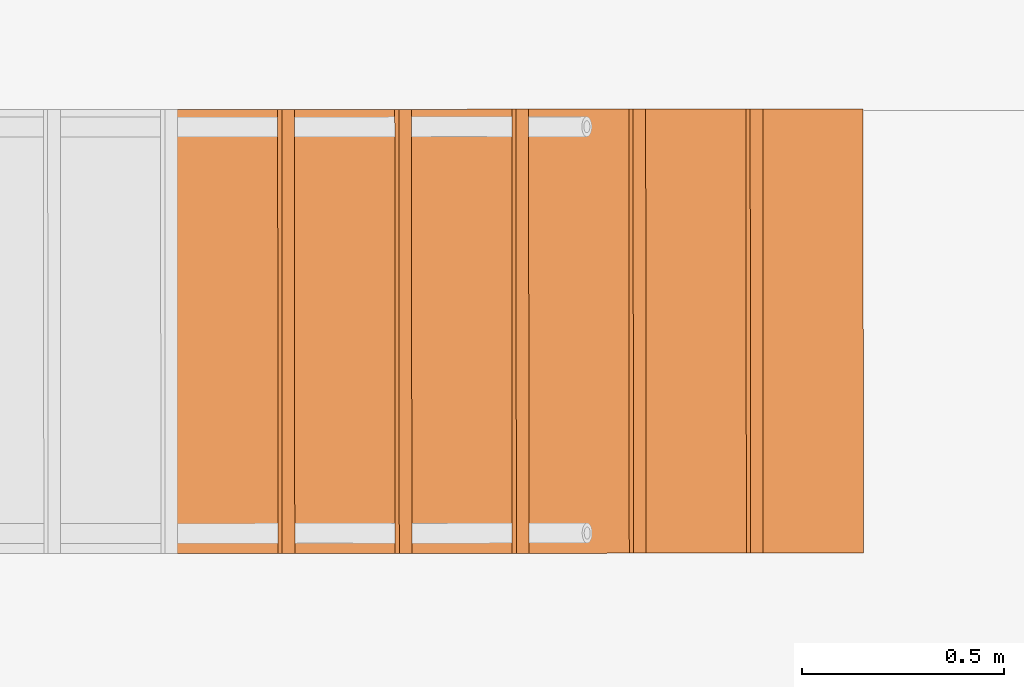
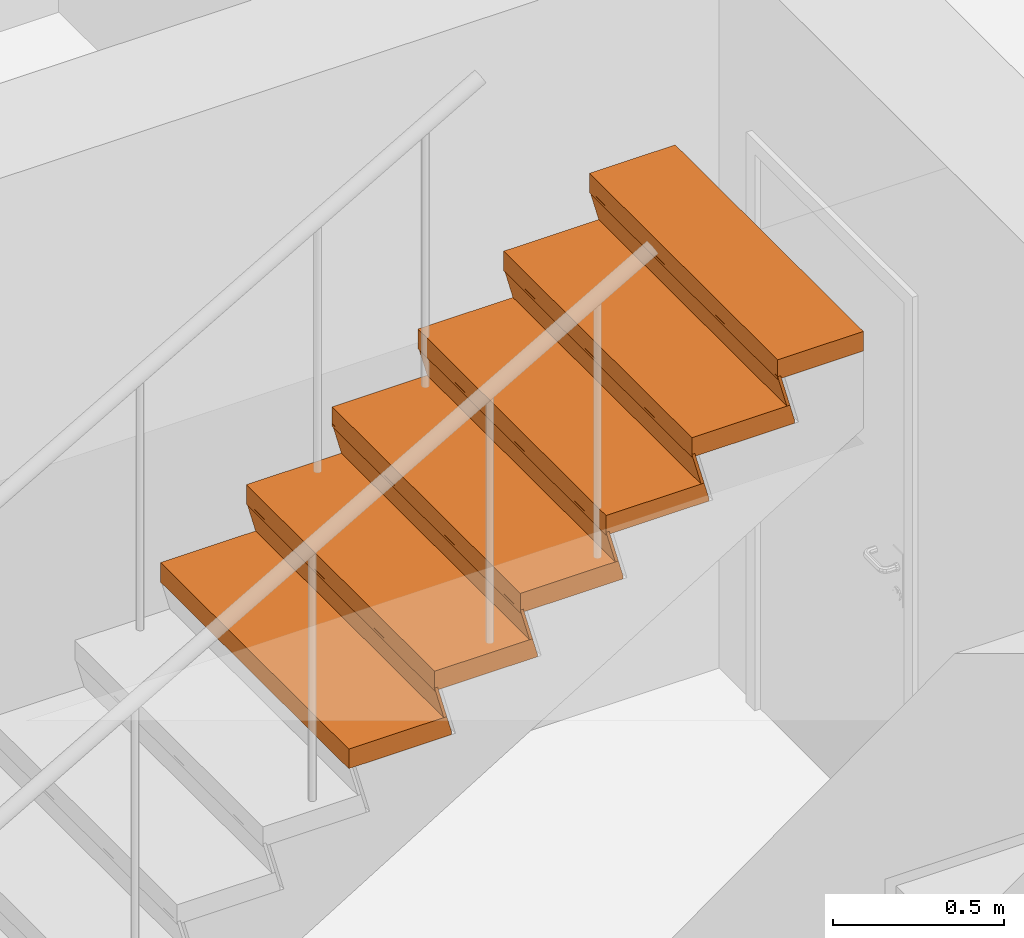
# One storey, part 127 of 127: 11 proxies, 1 element without a shape of its own.
"""IFC2X3 building model written with IfcOpenShell, lengths in millimetres."""

from ifc_helpers import new_model, entity, si_unit, converted_unit, derived_unit, money_unit, direction, frame, origin_with_axes, place, context, subcontext, project, spatial, faceted_brep, material, type_object, element, aggregate, save


model = new_model("IFC2X3")

# Units and contexts
model_context = context("Model", 3, precision=1e-05, world=origin_with_axes(), true_north=direction((0.0, 1.0)))
body_context = subcontext(model_context, "Body", "Model", "MODEL_VIEW")
ifc_project = project(units=[si_unit("LENGTHUNIT", "METRE", prefix="MILLI"), si_unit("AREAUNIT", "SQUARE_METRE"), si_unit("VOLUMEUNIT", "CUBIC_METRE"), converted_unit("PLANEANGLEUNIT", "DEGREE", entity("IfcPlaneAngleMeasure", 0.0174532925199), si_unit("PLANEANGLEUNIT", "RADIAN"), dimensions=[0, 0, 0, 0, 0, 0, 0]), si_unit("SOLIDANGLEUNIT", "STERADIAN"), money_unit("EUR"), converted_unit("TIMEUNIT", "Year", entity("IfcTimeMeasure", 31556926.0), si_unit("TIMEUNIT", "SECOND"), dimensions=[0, 0, 1, 0, 0, 0, 0]), si_unit("MASSUNIT", "GRAM", prefix="KILO"), si_unit("THERMODYNAMICTEMPERATUREUNIT", "DEGREE_CELSIUS"), si_unit("LUMINOUSINTENSITYUNIT", "LUMEN"), si_unit("ENERGYUNIT", "JOULE", prefix="MEGA"), derived_unit("THERMALCONDUCTANCEUNIT", [(si_unit("POWERUNIT", "WATT"), 1), (si_unit("LENGTHUNIT", "METRE"), -1), (si_unit("THERMODYNAMICTEMPERATUREUNIT", "KELVIN"), -1)]), derived_unit("SPECIFICHEATCAPACITYUNIT", [(si_unit("ENERGYUNIT", "JOULE"), 1), (si_unit("MASSUNIT", "GRAM", prefix="KILO"), -1), (si_unit("THERMODYNAMICTEMPERATUREUNIT", "KELVIN"), -1)]), derived_unit("MASSDENSITYUNIT", [(si_unit("MASSUNIT", "GRAM", prefix="KILO"), 1), (si_unit("VOLUMEUNIT", "CUBIC_METRE"), -1)])], contexts=[model_context])

# Site, building, storey
site_placement = place(None, origin_with_axes())
site = spatial("IfcSite", under=ifc_project, at=site_placement, Name="Site", CompositionType="ELEMENT")
building_placement = place(site_placement, origin_with_axes())
building = spatial("IfcBuilding", under=site, at=building_placement, Name="Building", CompositionType="ELEMENT")
storey_placement = place(building_placement, origin_with_axes())
storey = spatial("IfcBuildingStorey", under=building, at=storey_placement, Name="1 KORRUS", CompositionType="ELEMENT", Elevation=0.0)

# Stair, proxies
stair_placement = place(storey_placement, frame((9889.99181075, 65961.1849179, 0.0), z_axis=(0.0, 0.0, 1.0), x_axis=(1.0, 0.0, 0.0)))
stair = element("IfcStair", 1, at=stair_placement, inside=storey, Name="STAIR - 001", ShapeType="NOTDEFINED")
ifc_material = material(Name="Betoon - Ol.Olev konstruktsioon")
building_element_proxy_type_1 = type_object("IfcBuildingElementProxyType", Name="SF RISER - 020", PredefinedType="NOTDEFINED")
proxy_1_placement = place(stair_placement, frame((3480.43740271, -547.22526059, 2234.11764706), z_axis=(0.0, 0.0, 1.0), x_axis=(0.000797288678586, -0.999999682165, 0.0)))
proxy_1 = element("IfcBuildingElementProxy", 2, at=proxy_1_placement, type_object=building_element_proxy_type_1, material=ifc_material, Name=";  Objekti nimi: Riser 22", context=body_context, shape_type="Brep", body=[
    faceted_brep([(550.0, 0.0, 0.0), (550.0, 10.3527618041, 0.0), (-550.0, 10.3527618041, 0.0), (-550.0, 0.0, 0.0), (550.0, 31.2082000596, -116.470588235), (550.0, 41.5609618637, -116.470588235), (-550.0, 41.5609618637, -116.470588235), (-550.0, 31.2082000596, -116.470588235)], [[[0, 1, 2, 3]], [[0, 4, 5, 1]], [[1, 5, 6, 2]], [[3, 2, 6, 7]], [[4, 0, 3, 7]], [[5, 4, 7, 6]]]),
])
proxy_2_placement = place(stair_placement, frame((3770.43731054, -546.994046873, 2410.58823529), z_axis=(0.0, 0.0, 1.0), x_axis=(0.000797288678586, -0.999999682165, 0.0)))
proxy_2 = element("IfcBuildingElementProxy", 3, at=proxy_2_placement, type_object=building_element_proxy_type_1, material=ifc_material, Name=";  Objekti nimi: Riser 22", context=body_context, shape_type="Brep", body=[
    faceted_brep([(550.0, 0.0, 0.0), (550.0, 10.3527618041, 0.0), (-550.0, 10.3527618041, 0.0), (-550.0, 0.0, 0.0), (550.0, 31.2082000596, -116.470588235), (550.0, 41.5609618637, -116.470588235), (-550.0, 41.5609618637, -116.470588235), (-550.0, 31.2082000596, -116.470588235)], [[[0, 1, 2, 3]], [[0, 4, 5, 1]], [[1, 5, 6, 2]], [[3, 2, 6, 7]], [[4, 0, 3, 7]], [[5, 4, 7, 6]]]),
])
proxy_3_placement = place(stair_placement, frame((4060.43721836, -546.762833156, 2587.05882353), z_axis=(0.0, 0.0, 1.0), x_axis=(0.000797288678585, -0.999999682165, 0.0)))
proxy_3 = element("IfcBuildingElementProxy", 4, at=proxy_3_placement, type_object=building_element_proxy_type_1, material=ifc_material, Name=";  Objekti nimi: Riser 22", context=body_context, shape_type="Brep", body=[
    faceted_brep([(550.0, 0.0, 0.0), (550.0, 10.3527618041, 0.0), (-550.0, 10.3527618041, 0.0), (-550.0, 0.0, 0.0), (550.0, 31.2082000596, -116.470588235), (550.0, 41.5609618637, -116.470588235), (-550.0, 41.5609618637, -116.470588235), (-550.0, 31.2082000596, -116.470588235)], [[[0, 1, 2, 3]], [[0, 4, 5, 1]], [[1, 5, 6, 2]], [[3, 2, 6, 7]], [[4, 0, 3, 7]], [[5, 4, 7, 6]]]),
])
proxy_4_placement = place(stair_placement, frame((4350.43712619, -546.53161944, 2763.52941176), z_axis=(0.0, 0.0, 1.0), x_axis=(0.000797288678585, -0.999999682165, 0.0)))
proxy_4 = element("IfcBuildingElementProxy", 5, at=proxy_4_placement, type_object=building_element_proxy_type_1, material=ifc_material, Name=";  Objekti nimi: Riser 22", context=body_context, shape_type="Brep", body=[
    faceted_brep([(550.0, 0.0, 0.0), (550.0, 10.3527618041, 0.0), (-550.0, 10.3527618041, 0.0), (-550.0, 0.0, 0.0), (550.0, 31.2082000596, -116.470588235), (550.0, 41.5609618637, -116.470588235), (-550.0, 41.5609618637, -116.470588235), (-550.0, 31.2082000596, -116.470588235)], [[[0, 1, 2, 3]], [[0, 4, 5, 1]], [[1, 5, 6, 2]], [[3, 2, 6, 7]], [[4, 0, 3, 7]], [[5, 4, 7, 6]]]),
])
proxy_5_placement = place(stair_placement, frame((4640.43703402, -546.300405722, 2940.0), z_axis=(0.0, 0.0, 1.0), x_axis=(0.000797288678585, -0.999999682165, 0.0)))
proxy_5 = element("IfcBuildingElementProxy", 6, at=proxy_5_placement, type_object=building_element_proxy_type_1, material=ifc_material, Name=";  Objekti nimi: Riser 22", context=body_context, shape_type="Brep", body=[
    faceted_brep([(550.0, 0.0, 0.0), (550.0, 10.3527618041, 0.0), (-550.0, 10.3527618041, 0.0), (-550.0, 0.0, 0.0), (550.0, 31.2082000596, -116.470588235), (550.0, 41.5609618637, -116.470588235), (-550.0, 41.5609618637, -116.470588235), (-550.0, 31.2082000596, -116.470588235)], [[[0, 1, 2, 3]], [[0, 4, 5, 1]], [[1, 5, 6, 2]], [[3, 2, 6, 7]], [[4, 0, 3, 7]], [[5, 4, 7, 6]]]),
])
building_element_proxy_type_2 = type_object("IfcBuildingElementProxyType", Name="SF TREAD - 020", PredefinedType="NOTDEFINED")
proxy_6_placement = place(stair_placement, frame((3190.43749488, -547.456474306, 2117.64705882), z_axis=(0.0, 0.0, 1.0), x_axis=(0.000797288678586, -0.999999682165, 0.0)))
proxy_6 = element("IfcBuildingElementProxy", 7, at=proxy_6_placement, type_object=building_element_proxy_type_2, material=ifc_material, Name=";  Objekti nimi: Tread 22", context=body_context, shape_type="Brep", body=[
    faceted_brep([(-550.0, 347.637908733, -70.0), (550.0, 347.637914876, -70.0), (550.0, 0.0, -70.0), (-550.0, 0.0, -70.0), (510.0, 40.0, -70.0), (510.0, 307.637914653, -70.0), (-510.0, 307.637908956, -70.0), (-510.0, 40.0, -70.0), (-550.00000018, 347.637908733, -60.0), (550.0, 347.637908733, -60.0), (550.0, 331.560957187, 0.0), (550.0, 0.0, 0.0), (-550.0, 0.0, 0.0), (-550.0, 331.560957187, 0.0), (510.0, 40.0, -60.0), (510.0, 307.637914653, -60.0), (-510.0, 307.637908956, -60.0), (-510.0, 40.0, -60.0)], [[[0, 1, 2, 3], [4, 5, 6, 7]], [[0, 8, 9, 1]], [[10, 11, 2, 1, 9]], [[11, 12, 3, 2]], [[12, 13, 8, 0, 3]], [[5, 4, 14, 15]], [[6, 5, 15, 16]], [[7, 6, 16, 17]], [[4, 7, 17, 14]], [[13, 10, 9, 8]], [[10, 13, 12, 11]], [[17, 16, 15, 14]]]),
])
proxy_7_placement = place(stair_placement, frame((3480.43740271, -547.22526059, 2294.11764706), z_axis=(0.0, 0.0, 1.0), x_axis=(0.000797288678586, -0.999999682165, 0.0)))
proxy_7 = element("IfcBuildingElementProxy", 8, at=proxy_7_placement, type_object=building_element_proxy_type_2, material=ifc_material, Name=";  Objekti nimi: Tread 22", context=body_context, shape_type="Brep", body=[
    faceted_brep([(-550.0, 347.637912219, -70.0), (550.0, 347.637918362, -70.0), (550.0, 0.0, -70.0), (-550.0, 0.0, -70.0), (510.0, 40.0, -70.0), (510.0, 307.637918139, -70.0), (-510.0, 307.637912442, -70.0), (-510.0, 40.0, -70.0), (-550.00000018, 347.637912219, -60.0), (550.0, 347.637912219, -60.0), (550.0, 331.560960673, 0.0), (550.0, 0.0, 0.0), (-550.0, 0.0, 0.0), (-550.0, 331.560960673, 0.0), (510.0, 40.0, -60.0), (510.0, 307.637918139, -60.0), (-510.0, 307.637912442, -60.0), (-510.0, 40.0, -60.0)], [[[0, 1, 2, 3], [4, 5, 6, 7]], [[0, 8, 9, 1]], [[10, 11, 2, 1, 9]], [[11, 12, 3, 2]], [[12, 13, 8, 0, 3]], [[5, 4, 14, 15]], [[6, 5, 15, 16]], [[7, 6, 16, 17]], [[4, 7, 17, 14]], [[13, 10, 9, 8]], [[10, 13, 12, 11]], [[17, 16, 15, 14]]]),
])
proxy_8_placement = place(stair_placement, frame((3770.43731054, -546.994046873, 2470.58823529), z_axis=(0.0, 0.0, 1.0), x_axis=(0.000797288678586, -0.999999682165, 0.0)))
proxy_8 = element("IfcBuildingElementProxy", 9, at=proxy_8_placement, type_object=building_element_proxy_type_2, material=ifc_material, Name=";  Objekti nimi: Tread 22", context=body_context, shape_type="Brep", body=[
    faceted_brep([(-550.0, 347.637911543, -70.0), (550.0, 347.637917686, -70.0), (550.0, 0.0, -70.0), (-550.0, 0.0, -70.0), (510.0, 40.0, -70.0), (510.0, 307.637917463, -70.0), (-510.0, 307.637911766, -70.0), (-510.0, 40.0, -70.0), (-550.00000018, 347.637911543, -60.0), (550.0, 347.637911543, -60.0), (550.0, 331.560959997, 0.0), (550.0, 0.0, 0.0), (-550.0, 0.0, 0.0), (-550.0, 331.560959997, 0.0), (510.0, 40.0, -60.0), (510.0, 307.637917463, -60.0), (-510.0, 307.637911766, -60.0), (-510.0, 40.0, -60.0)], [[[0, 1, 2, 3], [4, 5, 6, 7]], [[0, 8, 9, 1]], [[10, 11, 2, 1, 9]], [[11, 12, 3, 2]], [[12, 13, 8, 0, 3]], [[5, 4, 14, 15]], [[6, 5, 15, 16]], [[7, 6, 16, 17]], [[4, 7, 17, 14]], [[13, 10, 9, 8]], [[10, 13, 12, 11]], [[17, 16, 15, 14]]]),
])
proxy_9_placement = place(stair_placement, frame((4060.43721836, -546.762833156, 2647.05882353), z_axis=(0.0, 0.0, 1.0), x_axis=(0.000797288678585, -0.999999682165, 0.0)))
proxy_9 = element("IfcBuildingElementProxy", 10, at=proxy_9_placement, type_object=building_element_proxy_type_2, material=ifc_material, Name=";  Objekti nimi: Tread 22", context=body_context, shape_type="Brep", body=[
    faceted_brep([(-550.0, 347.637910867, -70.0), (550.0, 347.63791701, -70.0), (550.0, 0.0, -70.0), (-550.0, 0.0, -70.0), (510.0, 40.0, -70.0), (510.0, 307.637916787, -70.0), (-510.0, 307.637911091, -70.0), (-510.0, 40.0, -70.0), (-550.00000018, 347.637910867, -60.0), (550.0, 347.637910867, -60.0), (550.0, 331.560959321, 0.0), (550.0, 0.0, 0.0), (-550.0, 0.0, 0.0), (-550.0, 331.560959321, 0.0), (510.0, 40.0, -60.0), (510.0, 307.637916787, -60.0), (-510.0, 307.637911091, -60.0), (-510.0, 40.0, -60.0)], [[[0, 1, 2, 3], [4, 5, 6, 7]], [[0, 8, 9, 1]], [[10, 11, 2, 1, 9]], [[11, 12, 3, 2]], [[12, 13, 8, 0, 3]], [[5, 4, 14, 15]], [[6, 5, 15, 16]], [[7, 6, 16, 17]], [[4, 7, 17, 14]], [[13, 10, 9, 8]], [[10, 13, 12, 11]], [[17, 16, 15, 14]]]),
])
proxy_10_placement = place(stair_placement, frame((4350.43712619, -546.53161944, 2823.52941176), z_axis=(0.0, 0.0, 1.0), x_axis=(0.000797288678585, -0.999999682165, 0.0)))
proxy_10 = element("IfcBuildingElementProxy", 11, at=proxy_10_placement, type_object=building_element_proxy_type_2, material=ifc_material, Name=";  Objekti nimi: Tread 22", context=body_context, shape_type="Brep", body=[
    faceted_brep([(-550.0, 347.637910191, -70.0), (550.0, 347.637916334, -70.0), (550.0, 0.0, -70.0), (-550.0, 0.0, -70.0), (510.0, 40.0, -70.0), (510.0, 307.637916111, -70.0), (-510.0, 307.637910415, -70.0), (-510.0, 40.0, -70.0), (-550.00000018, 347.637910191, -60.0), (550.0, 347.637910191, -60.0), (550.0, 331.560958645, 0.0), (550.0, 0.0, 0.0), (-550.0, 0.0, 0.0), (-550.0, 331.560958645, 0.0), (510.0, 40.0, -60.0), (510.0, 307.637916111, -60.0), (-510.0, 307.637910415, -60.0), (-510.0, 40.0, -60.0)], [[[0, 1, 2, 3], [4, 5, 6, 7]], [[0, 8, 9, 1]], [[10, 11, 2, 1, 9]], [[11, 12, 3, 2]], [[12, 13, 8, 0, 3]], [[5, 4, 14, 15]], [[6, 5, 15, 16]], [[7, 6, 16, 17]], [[4, 7, 17, 14]], [[13, 10, 9, 8]], [[10, 13, 12, 11]], [[17, 16, 15, 14]]]),
])
proxy_11_placement = place(stair_placement, frame((4640.43703402, -546.300405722, 3000.0), z_axis=(0.0, 0.0, 1.0), x_axis=(0.000797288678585, -0.999999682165, 0.0)))
proxy_11 = element("IfcBuildingElementProxy", 12, at=proxy_11_placement, type_object=building_element_proxy_type_2, material=ifc_material, Name=";  Objekti nimi: Tread 22", context=body_context, shape_type="Brep", body=[
    faceted_brep([(550.0, 0.0, -70.0), (-550.0, 0.0, -70.0), (-550.0, 290.0, -70.0), (550.0, 290.0, -70.0), (510.0, 40.0, -70.0), (510.0, 250.0, -70.0), (-510.0, 250.0, -70.0), (-510.0, 40.0, -70.0), (550.0, 0.0, 0.0), (-550.0, 0.0, 0.0), (-550.0, 290.0, 0.0), (550.0, 290.0, 0.0), (510.0, 40.0, -60.0), (510.0, 250.0, -60.0), (-510.0, 250.0, -60.0), (-510.0, 40.0, -60.0)], [[[0, 1, 2, 3], [4, 5, 6, 7]], [[8, 9, 1, 0]], [[9, 10, 2, 1]], [[10, 11, 3, 2]], [[11, 8, 0, 3]], [[5, 4, 12, 13]], [[6, 5, 13, 14]], [[7, 6, 14, 15]], [[4, 7, 15, 12]], [[11, 10, 9, 8]], [[15, 14, 13, 12]]]),
])
aggregate(stair, [proxy_1, proxy_2, proxy_3, proxy_4, proxy_5, proxy_6, proxy_7, proxy_8, proxy_9, proxy_10, proxy_11])

save(model, "model.ifc")
